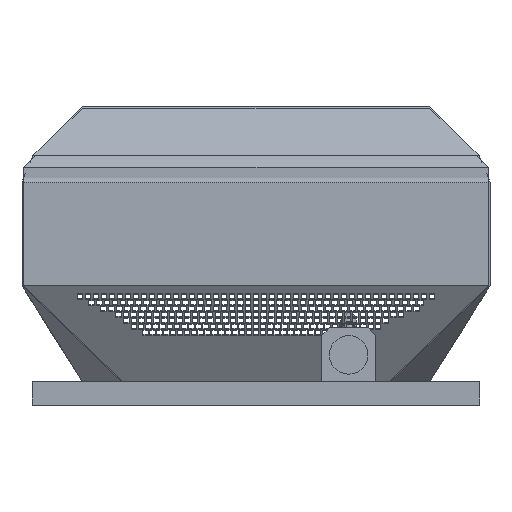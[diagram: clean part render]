
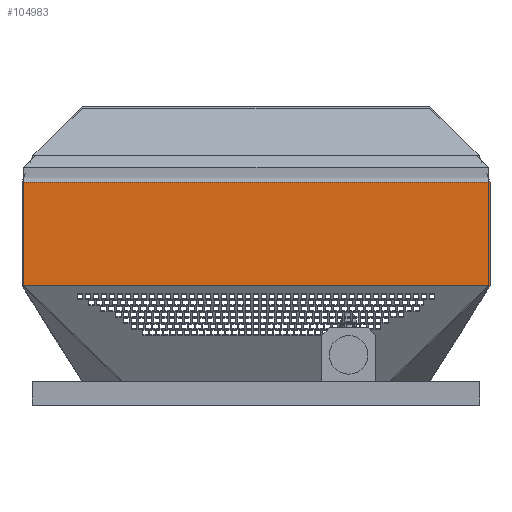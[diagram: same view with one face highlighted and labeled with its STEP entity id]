
A CAD part, left-side view. The second image highlights one B-rep face of the part: STEP entity #104983.
In plain terms, the highlighted planar face has unit normal (-1, 0, 0).
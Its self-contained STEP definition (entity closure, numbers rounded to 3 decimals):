
#7205=FACE_OUTER_BOUND('',#14363,.T.);
#14363=EDGE_LOOP('',(#95335,#95336,#95337,#95338));
#28520=LINE('',#162133,#42797);
#28526=LINE('',#162145,#42803);
#28602=LINE('',#162437,#42879);
#28623=LINE('',#162481,#42900);
#42797=VECTOR('',#133421,10.);
#42803=VECTOR('',#133433,10.);
#42879=VECTOR('',#133653,10.);
#42900=VECTOR('',#133696,10.);
#52372=VERTEX_POINT('',#162117);
#52377=VERTEX_POINT('',#162131);
#52380=VERTEX_POINT('',#162144);
#52435=VERTEX_POINT('',#162427);
#66623=EDGE_CURVE('',#52377,#52372,#28520,.T.);
#66629=EDGE_CURVE('',#52372,#52380,#28526,.T.);
#66728=EDGE_CURVE('',#52435,#52380,#28602,.T.);
#66749=EDGE_CURVE('',#52377,#52435,#28623,.T.);
#95335=ORIENTED_EDGE('',*,*,#66623,.F.);
#95336=ORIENTED_EDGE('',*,*,#66749,.T.);
#95337=ORIENTED_EDGE('',*,*,#66728,.T.);
#95338=ORIENTED_EDGE('',*,*,#66629,.F.);
#100184=PLANE('',#109822);
#104983=ADVANCED_FACE('',(#7205),#100184,.F.);
#109822=AXIS2_PLACEMENT_3D('',#162482,#133697,#133698);
#133421=DIRECTION('',(0.,-1.,0.));
#133433=DIRECTION('',(0.,0.,-1.));
#133653=DIRECTION('',(0.,-1.,0.));
#133696=DIRECTION('',(0.,0.,-1.));
#133697=DIRECTION('center_axis',(1.,0.,0.));
#133698=DIRECTION('ref_axis',(0.,0.,-1.));
#162117=CARTESIAN_POINT('',(-303.,-303.,288.8));
#162131=CARTESIAN_POINT('',(-303.,303.,288.8));
#162133=CARTESIAN_POINT('',(-303.,39.,288.8));
#162144=CARTESIAN_POINT('',(-303.,-303.,154.4));
#162145=CARTESIAN_POINT('',(-303.,-303.,308.8));
#162427=CARTESIAN_POINT('',(-303.,303.,154.4));
#162437=CARTESIAN_POINT('',(-303.,303.,154.4));
#162481=CARTESIAN_POINT('',(-303.,303.,308.8));
#162482=CARTESIAN_POINT('Origin',(-303.,303.,308.8));
